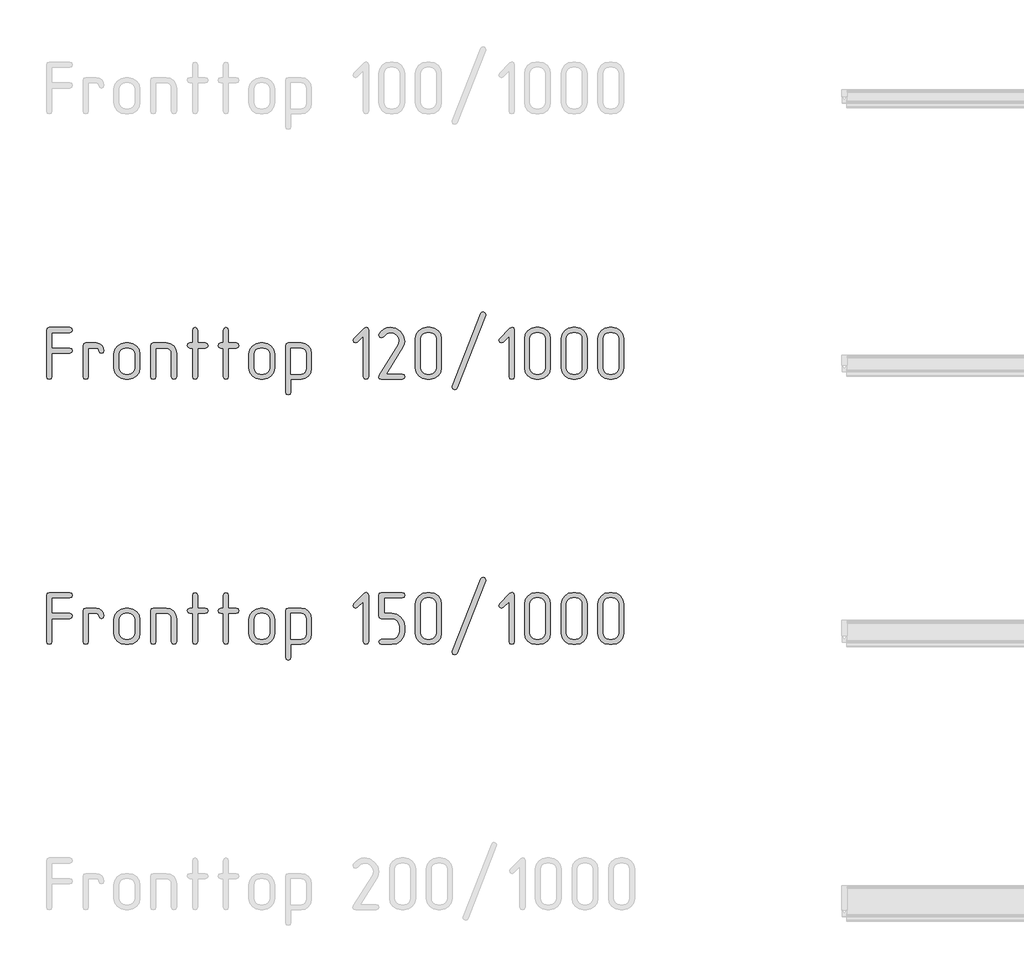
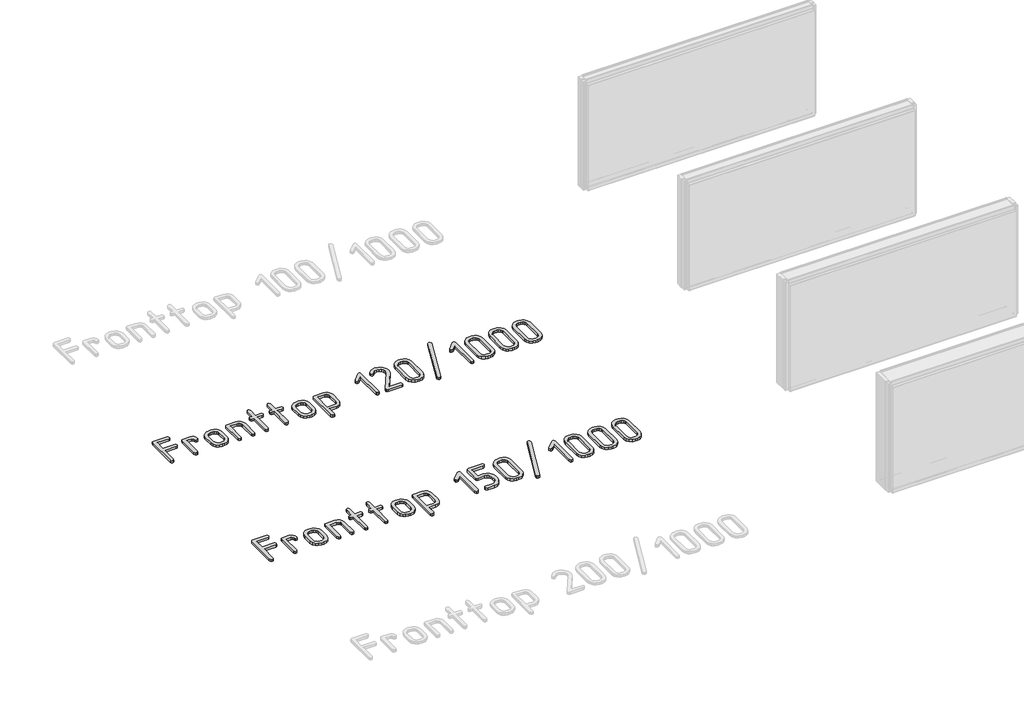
# One storey, part 17 of 37: 2 proxies.
"""IFC4 building model written with IfcOpenShell, lengths in millimetres."""

from ifc_helpers import new_model, si_unit, origin, origin_with_axes, place, context, project, spatial, polyline, outline, extrude, element, save

model = new_model("IFC4")

# Units and contexts
model_context = context("Model", 3, world=origin())
ifc_project = project(units=[si_unit("LENGTHUNIT", "METRE", prefix="MILLI")], contexts=[model_context])

# Site, building, storey
site = spatial("IfcSite", under=ifc_project)
building = spatial("IfcBuilding", under=site)
storey = spatial("IfcBuildingStorey", under=building, Name="Этаж 01", Elevation=0.0)

# Proxies
placement = place(None, origin())
element("IfcBuildingElementProxy", 1, Name="300 мм ГОСТ 2.304", ObjectType="300 мм ГОСТ 2.304", at=placement, inside=storey, context=model_context, shape_type="SweptSolid", body=[
    extrude(outline(polyline([(56161.9989869, -20551.9738322), (56264.4173344, -20551.9738322), (56275.3434297, -20556.0573223), (56278.9854614, -20566.5419592), (56275.1227005, -20577.0633842), (56264.4173344, -20581.5515446), (56161.9989869, -20581.5515446), (56161.9989869, -20713.5476044), (56157.9154968, -20724.4736997), (56147.4308599, -20728.1157314), (56136.9094349, -20724.2529705), (56132.4212745, -20713.5476044), (56132.4212745, -20449.9969431), (56136.1736709, -20438.739754), (56147.4308599, -20434.9873577), (56264.4173344, -20434.9873577), (56275.3434297, -20439.291577), (56278.9854614, -20449.9969431), (56275.1227005, -20460.0769098), (56264.4173344, -20464.5650701), (56161.9989869, -20464.5650701), (56161.9989869, -20551.9738322)])), origin_with_axes(), (0.0, 0.0, 1.0), 20.0),
    extrude(outline(polyline([(56457.0403471, -20566.9834176), (56452.9568569, -20577.9095128), (56442.4722201, -20581.5515446), (56431.950795, -20577.6887836), (56427.4626347, -20566.9834176), (56423.3791445, -20556.7195099), (56412.8945077, -20552.4152905), (56369.1901266, -20552.4152905), (56369.1901266, -20713.5476044), (56365.1066365, -20724.4736997), (56354.6219996, -20728.1157314), (56344.1005746, -20724.2529705), (56339.6124142, -20713.5476044), (56339.6124142, -20537.8471635), (56343.3648106, -20526.9210683), (56354.6219996, -20523.2790365), (56412.8945077, -20523.2790365), (56430.0378086, -20526.7003391), (56444.2012654, -20536.1181182), (56453.6190445, -20550.0608458), (56457.0403471, -20566.9834176)])), origin_with_axes(), (0.0, 0.0, 1.0), 20.0),
    extrude(outline(polyline([(56660.405514, -20663.8099587), (56655.6966245, -20688.7891462), (56641.5699559, -20709.7216317), (56620.9685641, -20723.5172065), (56596.0997413, -20728.1157314), (56578.5149819, -20728.1157314), (56553.5909767, -20723.5172065), (56532.6768853, -20709.7216317), (56518.5502167, -20688.7891462), (56513.8413271, -20663.8099587), (56513.8413271, -20587.5848093), (56518.5502167, -20562.9367156), (56532.6768853, -20542.1145947), (56553.9956469, -20527.9879261), (56578.5149819, -20523.2790365), (56596.0997413, -20523.2790365), (56620.7386379, -20527.9971231), (56641.5331677, -20542.1513829), (56655.6874274, -20562.9459127), (56660.405514, -20587.5848093), (56660.405514, -20663.8099587)]), holes=[polyline([(56631.26926, -20663.8099587), (56631.26926, -20587.5848093), (56628.694086, -20574.0835401), (56620.9685641, -20562.7159864), (56609.6010105, -20554.9904645), (56596.0997413, -20552.4152905), (56578.5149819, -20552.4152905), (56565.0229097, -20554.9904645), (56553.6829472, -20562.7159864), (56545.9850165, -20574.0835401), (56543.4190395, -20587.5848093), (56543.4190395, -20663.8099587), (56545.9850165, -20677.3112279), (56553.6829472, -20688.6787816), (56565.0229097, -20696.4043035), (56578.5149819, -20698.9794774), (56596.0997413, -20698.9794774), (56609.6010105, -20696.4043035), (56620.9685641, -20688.6787816), (56628.694086, -20677.3112279), (56631.26926, -20663.8099587)])]), origin_with_axes(), (0.0, 0.0, 1.0), 20.0),
    extrude(outline(polyline([(56867.5966537, -20713.5476044), (56863.5131635, -20724.4736997), (56853.0285267, -20728.1157314), (56842.7278308, -20724.2529705), (56838.4603997, -20713.5476044), (56838.4603997, -20581.5515446), (56836.3174871, -20570.4139172), (56829.8887492, -20560.986941), (56820.3514085, -20554.5582032), (56808.8826873, -20552.4152905), (56750.6101792, -20552.4152905), (56750.6101792, -20713.5476044), (56746.5266891, -20724.4736997), (56736.0420522, -20728.1157314), (56725.5206272, -20724.2529705), (56721.0324668, -20713.5476044), (56721.0324668, -20537.8471635), (56724.7848632, -20526.9210683), (56736.0420522, -20523.2790365), (56808.8826873, -20523.2790365), (56831.7097651, -20527.4544972), (56850.4533527, -20539.9808791), (56863.3108285, -20558.945196), (56867.5966537, -20581.5515446), (56867.5966537, -20713.5476044)])), origin_with_axes(), (0.0, 0.0, 1.0), 20.0),
    extrude(outline(polyline([(56986.9375729, -20523.2790365), (57031.0834124, -20523.2790365), (57042.0095076, -20527.3625267), (57045.6515394, -20537.8471635), (57041.7887784, -20547.9271302), (57031.0834124, -20552.4152905), (56986.9375729, -20552.4152905), (56986.9375729, -20713.5476044), (56982.8540828, -20724.4736997), (56972.3694459, -20728.1157314), (56962.0687501, -20724.2529705), (56957.8013189, -20713.5476044), (56957.8013189, -20552.4152905), (56943.2331919, -20552.4152905), (56932.3070966, -20548.1478594), (56928.2236065, -20537.8471635), (56932.0863675, -20527.5832559), (56943.2331919, -20523.2790365), (56957.8013189, -20523.2790365), (56957.8013189, -20449.9969431), (56962.0687501, -20439.0708478), (56972.3694459, -20434.9873577), (56982.6333536, -20438.8501186), (56986.9375729, -20449.9969431), (56986.9375729, -20523.2790365)])), origin_with_axes(), (0.0, 0.0, 1.0), 20.0),
    extrude(outline(polyline([(57161.1664858, -20523.2790365), (57205.3123253, -20523.2790365), (57216.2384205, -20527.3625267), (57219.8804523, -20537.8471635), (57216.0176913, -20547.9271302), (57205.3123253, -20552.4152905), (57161.1664858, -20552.4152905), (57161.1664858, -20713.5476044), (57157.0829957, -20724.4736997), (57146.5983588, -20728.1157314), (57136.297663, -20724.2529705), (57132.0302318, -20713.5476044), (57132.0302318, -20552.4152905), (57117.4621048, -20552.4152905), (57106.5360096, -20548.1478594), (57102.4525194, -20537.8471635), (57106.3152804, -20527.5832559), (57117.4621048, -20523.2790365), (57132.0302318, -20523.2790365), (57132.0302318, -20449.9969431), (57136.297663, -20439.0708478), (57146.5983588, -20434.9873577), (57156.8622665, -20438.8501186), (57161.1664858, -20449.9969431), (57161.1664858, -20523.2790365)])), origin_with_axes(), (0.0, 0.0, 1.0), 20.0),
    extrude(outline(polyline([(57423.2456192, -20663.8099587), (57418.5367297, -20688.7891462), (57404.4100611, -20709.7216317), (57383.8086693, -20723.5172065), (57358.9398465, -20728.1157314), (57341.3550871, -20728.1157314), (57316.4310819, -20723.5172065), (57295.5169905, -20709.7216317), (57281.3903219, -20688.7891462), (57276.6814323, -20663.8099587), (57276.6814323, -20587.5848093), (57281.3903219, -20562.9367156), (57295.5169905, -20542.1145947), (57316.8357521, -20527.9879261), (57341.3550871, -20523.2790365), (57358.9398465, -20523.2790365), (57383.5787431, -20527.9971231), (57404.3732729, -20542.1513829), (57418.5275326, -20562.9459127), (57423.2456192, -20587.5848093), (57423.2456192, -20663.8099587)]), holes=[polyline([(57394.1093652, -20663.8099587), (57394.1093652, -20587.5848093), (57391.5341912, -20574.0835401), (57383.8086693, -20562.7159864), (57372.4411157, -20554.9904645), (57358.9398465, -20552.4152905), (57341.3550871, -20552.4152905), (57327.8630149, -20554.9904645), (57316.5230524, -20562.7159864), (57308.8251217, -20574.0835401), (57306.2591447, -20587.5848093), (57306.2591447, -20663.8099587), (57308.8251217, -20677.3112279), (57316.5230524, -20688.6787816), (57327.8630149, -20696.4043035), (57341.3550871, -20698.9794774), (57358.9398465, -20698.9794774), (57372.4411157, -20696.4043035), (57383.8086693, -20688.6787816), (57391.5341912, -20677.3112279), (57394.1093652, -20663.8099587)])]), origin_with_axes(), (0.0, 0.0, 1.0), 20.0),
    extrude(outline(polyline([(57513.4502844, -20728.1157314), (57513.4502844, -20801.3978249), (57509.3667943, -20812.3239201), (57498.8821574, -20815.9659519), (57488.3607324, -20812.1031909), (57483.872572, -20801.3978249), (57483.872572, -20537.8471635), (57487.6249684, -20526.9210683), (57498.8821574, -20523.2790365), (57571.7227925, -20523.2790365), (57594.5498703, -20527.4544972), (57613.2934579, -20539.9808791), (57626.1509337, -20558.945196), (57630.4367589, -20581.5515446), (57630.4367589, -20669.401765), (57626.1509337, -20692.3392074), (57613.2934579, -20711.4138889), (57594.5498703, -20723.9402708), (57571.7227925, -20728.1157314), (57513.4502844, -20728.1157314)]), holes=[polyline([(57513.4502844, -20698.9794774), (57571.7227925, -20698.9794774), (57583.1915137, -20696.8365648), (57592.7288544, -20690.4078269), (57599.1575923, -20680.8704862), (57601.3005049, -20669.401765), (57601.3005049, -20581.5515446), (57599.1575923, -20570.4139172), (57592.7288544, -20560.986941), (57583.1915137, -20554.5582032), (57571.7227925, -20552.4152905), (57513.4502844, -20552.4152905), (57513.4502844, -20698.9794774)])]), origin_with_axes(), (0.0, 0.0, 1.0), 20.0),
    extrude(outline(polyline([(57953.1428451, -20713.5476044), (57949.0593549, -20724.4736997), (57938.5747181, -20728.1157314), (57928.4947514, -20724.2529705), (57924.006591, -20713.5476044), (57924.006591, -20485.1664618), (57890.1614475, -20518.570147), (57880.30221, -20523.2790365), (57869.780785, -20518.7908762), (57865.2926246, -20508.2694511), (57870.0015142, -20498.0423317), (57928.2740222, -20439.6962472), (57941.149892, -20433.2951005), (57949.7215425, -20437.5993199), (57953.1428451, -20449.9969431), (57953.1428451, -20713.5476044)])), origin_with_axes(), (0.0, 0.0, 1.0), 20.0),
    extrude(outline(polyline([(58147.0902329, -20548.1478594), (58052.3974074, -20698.9794774), (58143.2642602, -20698.9794774), (58154.1903554, -20703.0629676), (58157.8323872, -20713.5476044), (58153.9696262, -20723.6275711), (58143.2642602, -20728.1157314), (58026.2777857, -20728.1157314), (58014.3584091, -20725.2278578), (58010.3852835, -20716.5642368), (58013.8433743, -20705.3806241), (58121.8535281, -20533.138274), (58127.371758, -20511.2860835), (58123.7297262, -20493.1862893), (58112.803631, -20478.3238567), (58096.3041235, -20468.0047668), (58076.8247718, -20464.5650701), (58054.9725813, -20470.5615466), (58038.2707387, -20486.858719), (58033.3595141, -20491.9906728), (58026.2777857, -20493.7013241), (58015.9770898, -20489.6546222), (58011.2682003, -20479.5746555), (58013.8433743, -20471.4076752), (58025.6339922, -20456.6923954), (58040.4044543, -20445.0673244), (58057.1062969, -20437.5073494), (58074.6910563, -20434.9873577), (58106.0713905, -20440.7814991), (58132.5221059, -20458.1639234), (58150.5115355, -20483.0327463), (58156.508012, -20512.1690003), (58154.1535672, -20530.5814941), (58147.0902329, -20548.1478594)])), origin_with_axes(), (0.0, 0.0, 1.0), 20.0),
    extrude(outline(polyline([(58365.0235269, -20663.8099587), (58360.3146373, -20688.7891462), (58346.1879687, -20709.7216317), (58325.586577, -20723.5172065), (58300.7177541, -20728.1157314), (58283.1329947, -20728.1157314), (58258.2089896, -20723.5172065), (58237.2948981, -20709.7216317), (58223.1682295, -20688.7891462), (58218.45934, -20663.8099587), (58218.45934, -20499.7345888), (58223.1682295, -20475.0864952), (58237.2948981, -20454.2643742), (58258.3929306, -20439.8066118), (58283.1329947, -20434.9873577), (58300.7177541, -20434.9873577), (58325.3566507, -20439.7054443), (58346.1511805, -20453.859704), (58360.3054403, -20474.7645984), (58365.0235269, -20499.7345888), (58365.0235269, -20663.8099587)]), holes=[polyline([(58335.8872728, -20663.8099587), (58335.8872728, -20499.7345888), (58333.3120989, -20486.2333196), (58325.586577, -20474.865766), (58314.2190233, -20467.1402441), (58300.7177541, -20464.5650701), (58283.1329947, -20464.5650701), (58269.6409226, -20467.1402441), (58258.3009601, -20474.865766), (58250.6030293, -20486.2333196), (58248.0370524, -20499.7345888), (58248.0370524, -20663.8099587), (58250.6030293, -20677.3112279), (58258.3009601, -20688.6787816), (58269.6409226, -20696.4043035), (58283.1329947, -20698.9794774), (58300.7177541, -20698.9794774), (58314.2190233, -20696.4043035), (58325.586577, -20688.6787816), (58333.3120989, -20677.3112279), (58335.8872728, -20663.8099587)])]), origin_with_axes(), (0.0, 0.0, 1.0), 20.0),
    extrude(outline(polyline([(58615.4775892, -20367.2970706), (58454.3452753, -20777.4119188), (58448.7902572, -20784.2545239), (58441.1015235, -20786.8296979), (58430.3593692, -20782.7462077), (58425.6504797, -20772.2615709), (58426.5333965, -20766.6697645), (58587.6657103, -20356.6284927), (58593.2207285, -20349.7123112), (58600.9094622, -20347.1371372), (58611.6516164, -20351.4413566), (58616.360506, -20361.7052642), (58615.4775892, -20367.2970706)])), origin_with_axes(), (0.0, 0.0, 1.0), 20.0),
    extrude(outline(polyline([(58777.1985143, -20713.5476044), (58773.1150241, -20724.4736997), (58762.6303873, -20728.1157314), (58752.5504206, -20724.2529705), (58748.0622602, -20713.5476044), (58748.0622602, -20485.1664618), (58714.2171167, -20518.570147), (58704.3578792, -20523.2790365), (58693.8364542, -20518.7908762), (58689.3482938, -20508.2694511), (58694.0571833, -20498.0423317), (58752.3296914, -20439.6962472), (58765.2055612, -20433.2951005), (58773.7772117, -20437.5993199), (58777.1985143, -20449.9969431), (58777.1985143, -20713.5476044)])), origin_with_axes(), (0.0, 0.0, 1.0), 20.0),
    extrude(outline(polyline([(58981.8880564, -20663.8099587), (58977.1791668, -20688.7891462), (58963.0524982, -20709.7216317), (58942.4511065, -20723.5172065), (58917.5822836, -20728.1157314), (58899.9975242, -20728.1157314), (58875.0735191, -20723.5172065), (58854.1594277, -20709.7216317), (58840.032759, -20688.7891462), (58835.3238695, -20663.8099587), (58835.3238695, -20499.7345888), (58840.032759, -20475.0864952), (58854.1594277, -20454.2643742), (58875.2574601, -20439.8066118), (58899.9975242, -20434.9873577), (58917.5822836, -20434.9873577), (58942.2211802, -20439.7054443), (58963.01571, -20453.859704), (58977.1699698, -20474.7645984), (58981.8880564, -20499.7345888), (58981.8880564, -20663.8099587)]), holes=[polyline([(58952.7518024, -20663.8099587), (58952.7518024, -20499.7345888), (58950.1766284, -20486.2333196), (58942.4511065, -20474.865766), (58931.0835528, -20467.1402441), (58917.5822836, -20464.5650701), (58899.9975242, -20464.5650701), (58886.5054521, -20467.1402441), (58875.1654896, -20474.865766), (58867.4675588, -20486.2333196), (58864.9015819, -20499.7345888), (58864.9015819, -20663.8099587), (58867.4675588, -20677.3112279), (58875.1654896, -20688.6787816), (58886.5054521, -20696.4043035), (58899.9975242, -20698.9794774), (58917.5822836, -20698.9794774), (58931.0835528, -20696.4043035), (58942.4511065, -20688.6787816), (58950.1766284, -20677.3112279), (58952.7518024, -20663.8099587)])]), origin_with_axes(), (0.0, 0.0, 1.0), 20.0),
    extrude(outline(polyline([(59189.0791961, -20663.8099587), (59184.3703065, -20688.7891462), (59170.2436379, -20709.7216317), (59149.6422462, -20723.5172065), (59124.7734233, -20728.1157314), (59107.1886639, -20728.1157314), (59082.2646588, -20723.5172065), (59061.3505673, -20709.7216317), (59047.2238987, -20688.7891462), (59042.5150092, -20663.8099587), (59042.5150092, -20499.7345888), (59047.2238987, -20475.0864952), (59061.3505673, -20454.2643742), (59082.4485998, -20439.8066118), (59107.1886639, -20434.9873577), (59124.7734233, -20434.9873577), (59149.4123199, -20439.7054443), (59170.2068497, -20453.859704), (59184.3611095, -20474.7645984), (59189.0791961, -20499.7345888), (59189.0791961, -20663.8099587)]), holes=[polyline([(59159.942942, -20663.8099587), (59159.942942, -20499.7345888), (59157.3677681, -20486.2333196), (59149.6422462, -20474.865766), (59138.2746925, -20467.1402441), (59124.7734233, -20464.5650701), (59107.1886639, -20464.5650701), (59093.6965918, -20467.1402441), (59082.3566293, -20474.865766), (59074.6586985, -20486.2333196), (59072.0927216, -20499.7345888), (59072.0927216, -20663.8099587), (59074.6586985, -20677.3112279), (59082.3566293, -20688.6787816), (59093.6965918, -20696.4043035), (59107.1886639, -20698.9794774), (59124.7734233, -20698.9794774), (59138.2746925, -20696.4043035), (59149.6422462, -20688.6787816), (59157.3677681, -20677.3112279), (59159.942942, -20663.8099587)])]), origin_with_axes(), (0.0, 0.0, 1.0), 20.0),
    extrude(outline(polyline([(59396.2703357, -20663.8099587), (59391.5614462, -20688.7891462), (59377.4347776, -20709.7216317), (59356.8333859, -20723.5172065), (59331.964563, -20728.1157314), (59314.3798036, -20728.1157314), (59289.4557984, -20723.5172065), (59268.541707, -20709.7216317), (59254.4150384, -20688.7891462), (59249.7061489, -20663.8099587), (59249.7061489, -20499.7345888), (59254.4150384, -20475.0864952), (59268.541707, -20454.2643742), (59289.6397394, -20439.8066118), (59314.3798036, -20434.9873577), (59331.964563, -20434.9873577), (59356.6034596, -20439.7054443), (59377.3979894, -20453.859704), (59391.5522492, -20474.7645984), (59396.2703357, -20499.7345888), (59396.2703357, -20663.8099587)]), holes=[polyline([(59367.1340817, -20663.8099587), (59367.1340817, -20499.7345888), (59364.5589078, -20486.2333196), (59356.8333859, -20474.865766), (59345.4658322, -20467.1402441), (59331.964563, -20464.5650701), (59314.3798036, -20464.5650701), (59300.8877314, -20467.1402441), (59289.5477689, -20474.865766), (59281.8498382, -20486.2333196), (59279.2838613, -20499.7345888), (59279.2838613, -20663.8099587), (59281.8498382, -20677.3112279), (59289.5477689, -20688.6787816), (59300.8877314, -20696.4043035), (59314.3798036, -20698.9794774), (59331.964563, -20698.9794774), (59345.4658322, -20696.4043035), (59356.8333859, -20688.6787816), (59364.5589078, -20677.3112279), (59367.1340817, -20663.8099587)])]), origin_with_axes(), (0.0, 0.0, 1.0), 20.0),
])
element("IfcBuildingElementProxy", 2, Name="300 мм ГОСТ 2.304", ObjectType="300 мм ГОСТ 2.304", at=placement, inside=storey, context=model_context, shape_type="SweptSolid", body=[
    extrude(outline(polyline([(56161.9989869, -22051.9738322), (56264.4173344, -22051.9738322), (56275.3434297, -22056.0573223), (56278.9854614, -22066.5419592), (56275.1227005, -22077.0633842), (56264.4173344, -22081.5515446), (56161.9989869, -22081.5515446), (56161.9989869, -22213.5476044), (56157.9154968, -22224.4736997), (56147.4308599, -22228.1157314), (56136.9094349, -22224.2529705), (56132.4212745, -22213.5476044), (56132.4212745, -21949.9969431), (56136.1736709, -21938.739754), (56147.4308599, -21934.9873577), (56264.4173344, -21934.9873577), (56275.3434297, -21939.291577), (56278.9854614, -21949.9969431), (56275.1227005, -21960.0769098), (56264.4173344, -21964.5650701), (56161.9989869, -21964.5650701), (56161.9989869, -22051.9738322)])), origin_with_axes(), (0.0, 0.0, 1.0), 20.0),
    extrude(outline(polyline([(56457.0403471, -22066.9834176), (56452.9568569, -22077.9095128), (56442.4722201, -22081.5515446), (56431.950795, -22077.6887836), (56427.4626347, -22066.9834176), (56423.3791445, -22056.7195099), (56412.8945077, -22052.4152905), (56369.1901266, -22052.4152905), (56369.1901266, -22213.5476044), (56365.1066365, -22224.4736997), (56354.6219996, -22228.1157314), (56344.1005746, -22224.2529705), (56339.6124142, -22213.5476044), (56339.6124142, -22037.8471635), (56343.3648106, -22026.9210683), (56354.6219996, -22023.2790365), (56412.8945077, -22023.2790365), (56430.0378086, -22026.7003391), (56444.2012654, -22036.1181182), (56453.6190445, -22050.0608458), (56457.0403471, -22066.9834176)])), origin_with_axes(), (0.0, 0.0, 1.0), 20.0),
    extrude(outline(polyline([(56660.405514, -22163.8099587), (56655.6966245, -22188.7891462), (56641.5699559, -22209.7216317), (56620.9685641, -22223.5172065), (56596.0997413, -22228.1157314), (56578.5149819, -22228.1157314), (56553.5909767, -22223.5172065), (56532.6768853, -22209.7216317), (56518.5502167, -22188.7891462), (56513.8413271, -22163.8099587), (56513.8413271, -22087.5848093), (56518.5502167, -22062.9367156), (56532.6768853, -22042.1145947), (56553.9956469, -22027.9879261), (56578.5149819, -22023.2790365), (56596.0997413, -22023.2790365), (56620.7386379, -22027.9971231), (56641.5331677, -22042.1513829), (56655.6874274, -22062.9459127), (56660.405514, -22087.5848093), (56660.405514, -22163.8099587)]), holes=[polyline([(56631.26926, -22163.8099587), (56631.26926, -22087.5848093), (56628.694086, -22074.0835401), (56620.9685641, -22062.7159864), (56609.6010105, -22054.9904645), (56596.0997413, -22052.4152905), (56578.5149819, -22052.4152905), (56565.0229097, -22054.9904645), (56553.6829472, -22062.7159864), (56545.9850165, -22074.0835401), (56543.4190395, -22087.5848093), (56543.4190395, -22163.8099587), (56545.9850165, -22177.3112279), (56553.6829472, -22188.6787816), (56565.0229097, -22196.4043035), (56578.5149819, -22198.9794774), (56596.0997413, -22198.9794774), (56609.6010105, -22196.4043035), (56620.9685641, -22188.6787816), (56628.694086, -22177.3112279), (56631.26926, -22163.8099587)])]), origin_with_axes(), (0.0, 0.0, 1.0), 20.0),
    extrude(outline(polyline([(56867.5966537, -22213.5476044), (56863.5131635, -22224.4736997), (56853.0285267, -22228.1157314), (56842.7278308, -22224.2529705), (56838.4603997, -22213.5476044), (56838.4603997, -22081.5515446), (56836.3174871, -22070.4139172), (56829.8887492, -22060.986941), (56820.3514085, -22054.5582032), (56808.8826873, -22052.4152905), (56750.6101792, -22052.4152905), (56750.6101792, -22213.5476044), (56746.5266891, -22224.4736997), (56736.0420522, -22228.1157314), (56725.5206272, -22224.2529705), (56721.0324668, -22213.5476044), (56721.0324668, -22037.8471635), (56724.7848632, -22026.9210683), (56736.0420522, -22023.2790365), (56808.8826873, -22023.2790365), (56831.7097651, -22027.4544972), (56850.4533527, -22039.9808791), (56863.3108285, -22058.945196), (56867.5966537, -22081.5515446), (56867.5966537, -22213.5476044)])), origin_with_axes(), (0.0, 0.0, 1.0), 20.0),
    extrude(outline(polyline([(56986.9375729, -22023.2790365), (57031.0834124, -22023.2790365), (57042.0095076, -22027.3625267), (57045.6515394, -22037.8471635), (57041.7887784, -22047.9271302), (57031.0834124, -22052.4152905), (56986.9375729, -22052.4152905), (56986.9375729, -22213.5476044), (56982.8540828, -22224.4736997), (56972.3694459, -22228.1157314), (56962.0687501, -22224.2529705), (56957.8013189, -22213.5476044), (56957.8013189, -22052.4152905), (56943.2331919, -22052.4152905), (56932.3070966, -22048.1478594), (56928.2236065, -22037.8471635), (56932.0863675, -22027.5832559), (56943.2331919, -22023.2790365), (56957.8013189, -22023.2790365), (56957.8013189, -21949.9969431), (56962.0687501, -21939.0708478), (56972.3694459, -21934.9873577), (56982.6333536, -21938.8501186), (56986.9375729, -21949.9969431), (56986.9375729, -22023.2790365)])), origin_with_axes(), (0.0, 0.0, 1.0), 20.0),
    extrude(outline(polyline([(57161.1664858, -22023.2790365), (57205.3123253, -22023.2790365), (57216.2384205, -22027.3625267), (57219.8804523, -22037.8471635), (57216.0176913, -22047.9271302), (57205.3123253, -22052.4152905), (57161.1664858, -22052.4152905), (57161.1664858, -22213.5476044), (57157.0829957, -22224.4736997), (57146.5983588, -22228.1157314), (57136.297663, -22224.2529705), (57132.0302318, -22213.5476044), (57132.0302318, -22052.4152905), (57117.4621048, -22052.4152905), (57106.5360096, -22048.1478594), (57102.4525194, -22037.8471635), (57106.3152804, -22027.5832559), (57117.4621048, -22023.2790365), (57132.0302318, -22023.2790365), (57132.0302318, -21949.9969431), (57136.297663, -21939.0708478), (57146.5983588, -21934.9873577), (57156.8622665, -21938.8501186), (57161.1664858, -21949.9969431), (57161.1664858, -22023.2790365)])), origin_with_axes(), (0.0, 0.0, 1.0), 20.0),
    extrude(outline(polyline([(57423.2456192, -22163.8099587), (57418.5367297, -22188.7891462), (57404.4100611, -22209.7216317), (57383.8086693, -22223.5172065), (57358.9398465, -22228.1157314), (57341.3550871, -22228.1157314), (57316.4310819, -22223.5172065), (57295.5169905, -22209.7216317), (57281.3903219, -22188.7891462), (57276.6814323, -22163.8099587), (57276.6814323, -22087.5848093), (57281.3903219, -22062.9367156), (57295.5169905, -22042.1145947), (57316.8357521, -22027.9879261), (57341.3550871, -22023.2790365), (57358.9398465, -22023.2790365), (57383.5787431, -22027.9971231), (57404.3732729, -22042.1513829), (57418.5275326, -22062.9459127), (57423.2456192, -22087.5848093), (57423.2456192, -22163.8099587)]), holes=[polyline([(57394.1093652, -22163.8099587), (57394.1093652, -22087.5848093), (57391.5341912, -22074.0835401), (57383.8086693, -22062.7159864), (57372.4411157, -22054.9904645), (57358.9398465, -22052.4152905), (57341.3550871, -22052.4152905), (57327.8630149, -22054.9904645), (57316.5230524, -22062.7159864), (57308.8251217, -22074.0835401), (57306.2591447, -22087.5848093), (57306.2591447, -22163.8099587), (57308.8251217, -22177.3112279), (57316.5230524, -22188.6787816), (57327.8630149, -22196.4043035), (57341.3550871, -22198.9794774), (57358.9398465, -22198.9794774), (57372.4411157, -22196.4043035), (57383.8086693, -22188.6787816), (57391.5341912, -22177.3112279), (57394.1093652, -22163.8099587)])]), origin_with_axes(), (0.0, 0.0, 1.0), 20.0),
    extrude(outline(polyline([(57513.4502844, -22228.1157314), (57513.4502844, -22301.3978249), (57509.3667943, -22312.3239201), (57498.8821574, -22315.9659519), (57488.3607324, -22312.1031909), (57483.872572, -22301.3978249), (57483.872572, -22037.8471635), (57487.6249684, -22026.9210683), (57498.8821574, -22023.2790365), (57571.7227925, -22023.2790365), (57594.5498703, -22027.4544972), (57613.2934579, -22039.9808791), (57626.1509337, -22058.945196), (57630.4367589, -22081.5515446), (57630.4367589, -22169.401765), (57626.1509337, -22192.3392074), (57613.2934579, -22211.4138889), (57594.5498703, -22223.9402708), (57571.7227925, -22228.1157314), (57513.4502844, -22228.1157314)]), holes=[polyline([(57513.4502844, -22198.9794774), (57571.7227925, -22198.9794774), (57583.1915137, -22196.8365648), (57592.7288544, -22190.4078269), (57599.1575923, -22180.8704862), (57601.3005049, -22169.401765), (57601.3005049, -22081.5515446), (57599.1575923, -22070.4139172), (57592.7288544, -22060.986941), (57583.1915137, -22054.5582032), (57571.7227925, -22052.4152905), (57513.4502844, -22052.4152905), (57513.4502844, -22198.9794774)])]), origin_with_axes(), (0.0, 0.0, 1.0), 20.0),
    extrude(outline(polyline([(57953.1428451, -22213.5476044), (57949.0593549, -22224.4736997), (57938.5747181, -22228.1157314), (57928.4947514, -22224.2529705), (57924.006591, -22213.5476044), (57924.006591, -21985.1664618), (57890.1614475, -22018.570147), (57880.30221, -22023.2790365), (57869.780785, -22018.7908762), (57865.2926246, -22008.2694511), (57870.0015142, -21998.0423317), (57928.2740222, -21939.6962472), (57941.149892, -21933.2951005), (57949.7215425, -21937.5993199), (57953.1428451, -21949.9969431), (57953.1428451, -22213.5476044)])), origin_with_axes(), (0.0, 0.0, 1.0), 20.0),
    extrude(outline(polyline([(58040.8459127, -21964.5650701), (58040.8459127, -22052.4152905), (58084.5502937, -22052.4152905), (58112.7024634, -22057.7771706), (58136.3848669, -22073.8628109), (58152.4705071, -22097.5452143), (58157.8323872, -22125.697384), (58157.8323872, -22154.833638), (58152.4705071, -22183.0317929), (58136.3848669, -22206.7049993), (58112.7024634, -22222.7630484), (58084.5502937, -22228.1157314), (58026.2777857, -22228.1157314), (58015.3516904, -22223.8483003), (58011.2682003, -22213.5476044), (58015.1309613, -22203.2469086), (58026.2777857, -22198.9794774), (58084.5502937, -22198.9794774), (58101.6935947, -22195.5581749), (58115.8570515, -22185.9196666), (58125.2748306, -22171.7562098), (58128.6961332, -22154.833638), (58128.6961332, -22125.697384), (58125.2748306, -22108.554083), (58115.8570515, -22094.3906262), (58101.6935947, -22084.9728471), (58084.5502937, -22081.5515446), (58026.2777857, -22081.5515446), (58015.0205967, -22077.9095128), (58011.2682003, -22066.9834176), (58011.2682003, -21949.9969431), (58015.0205967, -21938.739754), (58026.2777857, -21934.9873577), (58143.2642602, -21934.9873577), (58154.1903554, -21939.291577), (58157.8323872, -21949.9969431), (58153.9696262, -21960.0769098), (58143.2642602, -21964.5650701), (58040.8459127, -21964.5650701)])), origin_with_axes(), (0.0, 0.0, 1.0), 20.0),
    extrude(outline(polyline([(58365.0235269, -22163.8099587), (58360.3146373, -22188.7891462), (58346.1879687, -22209.7216317), (58325.586577, -22223.5172065), (58300.7177541, -22228.1157314), (58283.1329947, -22228.1157314), (58258.2089896, -22223.5172065), (58237.2948981, -22209.7216317), (58223.1682295, -22188.7891462), (58218.45934, -22163.8099587), (58218.45934, -21999.7345888), (58223.1682295, -21975.0864952), (58237.2948981, -21954.2643742), (58258.3929306, -21939.8066118), (58283.1329947, -21934.9873577), (58300.7177541, -21934.9873577), (58325.3566507, -21939.7054443), (58346.1511805, -21953.859704), (58360.3054403, -21974.7645984), (58365.0235269, -21999.7345888), (58365.0235269, -22163.8099587)]), holes=[polyline([(58335.8872728, -22163.8099587), (58335.8872728, -21999.7345888), (58333.3120989, -21986.2333196), (58325.586577, -21974.865766), (58314.2190233, -21967.1402441), (58300.7177541, -21964.5650701), (58283.1329947, -21964.5650701), (58269.6409226, -21967.1402441), (58258.3009601, -21974.865766), (58250.6030293, -21986.2333196), (58248.0370524, -21999.7345888), (58248.0370524, -22163.8099587), (58250.6030293, -22177.3112279), (58258.3009601, -22188.6787816), (58269.6409226, -22196.4043035), (58283.1329947, -22198.9794774), (58300.7177541, -22198.9794774), (58314.2190233, -22196.4043035), (58325.586577, -22188.6787816), (58333.3120989, -22177.3112279), (58335.8872728, -22163.8099587)])]), origin_with_axes(), (0.0, 0.0, 1.0), 20.0),
    extrude(outline(polyline([(58615.4775892, -21867.2970706), (58454.3452753, -22277.4119188), (58448.7902572, -22284.2545239), (58441.1015235, -22286.8296979), (58430.3593692, -22282.7462077), (58425.6504797, -22272.2615709), (58426.5333965, -22266.6697645), (58587.6657103, -21856.6284927), (58593.2207285, -21849.7123112), (58600.9094622, -21847.1371372), (58611.6516164, -21851.4413566), (58616.360506, -21861.7052642), (58615.4775892, -21867.2970706)])), origin_with_axes(), (0.0, 0.0, 1.0), 20.0),
    extrude(outline(polyline([(58777.1985143, -22213.5476044), (58773.1150241, -22224.4736997), (58762.6303873, -22228.1157314), (58752.5504206, -22224.2529705), (58748.0622602, -22213.5476044), (58748.0622602, -21985.1664618), (58714.2171167, -22018.570147), (58704.3578792, -22023.2790365), (58693.8364542, -22018.7908762), (58689.3482938, -22008.2694511), (58694.0571833, -21998.0423317), (58752.3296914, -21939.6962472), (58765.2055612, -21933.2951005), (58773.7772117, -21937.5993199), (58777.1985143, -21949.9969431), (58777.1985143, -22213.5476044)])), origin_with_axes(), (0.0, 0.0, 1.0), 20.0),
    extrude(outline(polyline([(58981.8880564, -22163.8099587), (58977.1791668, -22188.7891462), (58963.0524982, -22209.7216317), (58942.4511065, -22223.5172065), (58917.5822836, -22228.1157314), (58899.9975242, -22228.1157314), (58875.0735191, -22223.5172065), (58854.1594277, -22209.7216317), (58840.032759, -22188.7891462), (58835.3238695, -22163.8099587), (58835.3238695, -21999.7345888), (58840.032759, -21975.0864952), (58854.1594277, -21954.2643742), (58875.2574601, -21939.8066118), (58899.9975242, -21934.9873577), (58917.5822836, -21934.9873577), (58942.2211802, -21939.7054443), (58963.01571, -21953.859704), (58977.1699698, -21974.7645984), (58981.8880564, -21999.7345888), (58981.8880564, -22163.8099587)]), holes=[polyline([(58952.7518024, -22163.8099587), (58952.7518024, -21999.7345888), (58950.1766284, -21986.2333196), (58942.4511065, -21974.865766), (58931.0835528, -21967.1402441), (58917.5822836, -21964.5650701), (58899.9975242, -21964.5650701), (58886.5054521, -21967.1402441), (58875.1654896, -21974.865766), (58867.4675588, -21986.2333196), (58864.9015819, -21999.7345888), (58864.9015819, -22163.8099587), (58867.4675588, -22177.3112279), (58875.1654896, -22188.6787816), (58886.5054521, -22196.4043035), (58899.9975242, -22198.9794774), (58917.5822836, -22198.9794774), (58931.0835528, -22196.4043035), (58942.4511065, -22188.6787816), (58950.1766284, -22177.3112279), (58952.7518024, -22163.8099587)])]), origin_with_axes(), (0.0, 0.0, 1.0), 20.0),
    extrude(outline(polyline([(59189.0791961, -22163.8099587), (59184.3703065, -22188.7891462), (59170.2436379, -22209.7216317), (59149.6422462, -22223.5172065), (59124.7734233, -22228.1157314), (59107.1886639, -22228.1157314), (59082.2646588, -22223.5172065), (59061.3505673, -22209.7216317), (59047.2238987, -22188.7891462), (59042.5150092, -22163.8099587), (59042.5150092, -21999.7345888), (59047.2238987, -21975.0864952), (59061.3505673, -21954.2643742), (59082.4485998, -21939.8066118), (59107.1886639, -21934.9873577), (59124.7734233, -21934.9873577), (59149.4123199, -21939.7054443), (59170.2068497, -21953.859704), (59184.3611095, -21974.7645984), (59189.0791961, -21999.7345888), (59189.0791961, -22163.8099587)]), holes=[polyline([(59159.942942, -22163.8099587), (59159.942942, -21999.7345888), (59157.3677681, -21986.2333196), (59149.6422462, -21974.865766), (59138.2746925, -21967.1402441), (59124.7734233, -21964.5650701), (59107.1886639, -21964.5650701), (59093.6965918, -21967.1402441), (59082.3566293, -21974.865766), (59074.6586985, -21986.2333196), (59072.0927216, -21999.7345888), (59072.0927216, -22163.8099587), (59074.6586985, -22177.3112279), (59082.3566293, -22188.6787816), (59093.6965918, -22196.4043035), (59107.1886639, -22198.9794774), (59124.7734233, -22198.9794774), (59138.2746925, -22196.4043035), (59149.6422462, -22188.6787816), (59157.3677681, -22177.3112279), (59159.942942, -22163.8099587)])]), origin_with_axes(), (0.0, 0.0, 1.0), 20.0),
    extrude(outline(polyline([(59396.2703357, -22163.8099587), (59391.5614462, -22188.7891462), (59377.4347776, -22209.7216317), (59356.8333859, -22223.5172065), (59331.964563, -22228.1157314), (59314.3798036, -22228.1157314), (59289.4557984, -22223.5172065), (59268.541707, -22209.7216317), (59254.4150384, -22188.7891462), (59249.7061489, -22163.8099587), (59249.7061489, -21999.7345888), (59254.4150384, -21975.0864952), (59268.541707, -21954.2643742), (59289.6397394, -21939.8066118), (59314.3798036, -21934.9873577), (59331.964563, -21934.9873577), (59356.6034596, -21939.7054443), (59377.3979894, -21953.859704), (59391.5522492, -21974.7645984), (59396.2703357, -21999.7345888), (59396.2703357, -22163.8099587)]), holes=[polyline([(59367.1340817, -22163.8099587), (59367.1340817, -21999.7345888), (59364.5589078, -21986.2333196), (59356.8333859, -21974.865766), (59345.4658322, -21967.1402441), (59331.964563, -21964.5650701), (59314.3798036, -21964.5650701), (59300.8877314, -21967.1402441), (59289.5477689, -21974.865766), (59281.8498382, -21986.2333196), (59279.2838613, -21999.7345888), (59279.2838613, -22163.8099587), (59281.8498382, -22177.3112279), (59289.5477689, -22188.6787816), (59300.8877314, -22196.4043035), (59314.3798036, -22198.9794774), (59331.964563, -22198.9794774), (59345.4658322, -22196.4043035), (59356.8333859, -22188.6787816), (59364.5589078, -22177.3112279), (59367.1340817, -22163.8099587)])]), origin_with_axes(), (0.0, 0.0, 1.0), 20.0),
])

save(model, "model.ifc")
